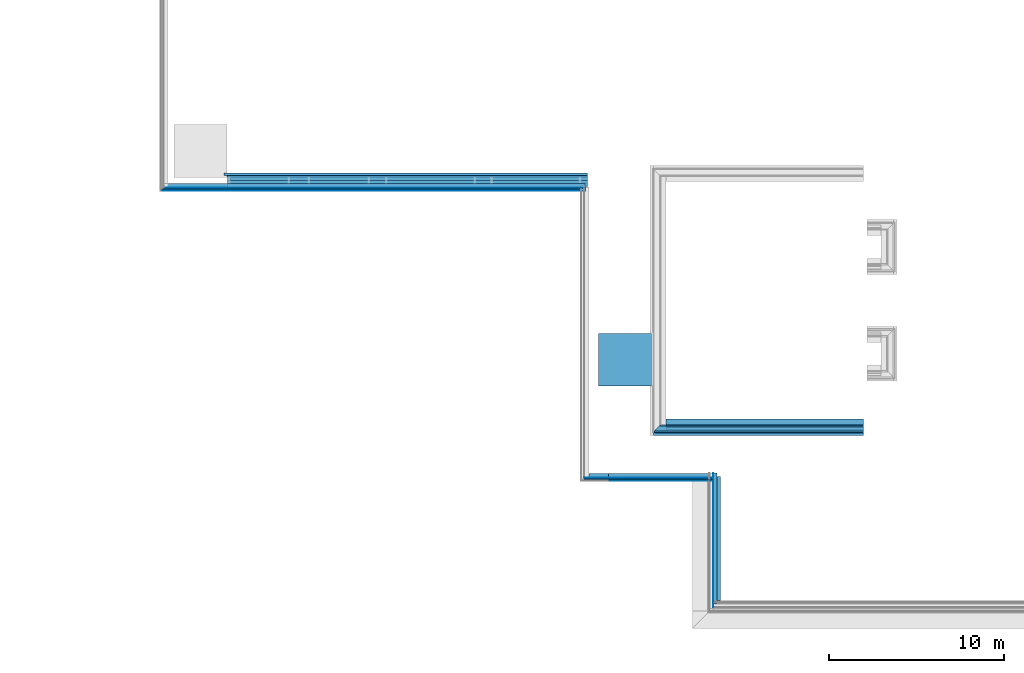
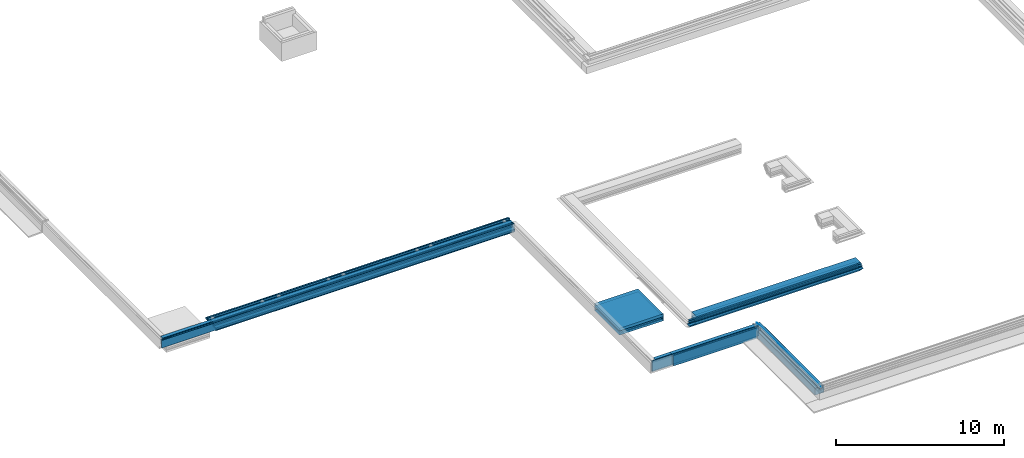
# One storey, part 2 of 17: 37 building element parts, 8 elements without a shape of their own.
"""IFC2X3 building model written with IfcOpenShell, lengths in millimetres."""

import ifcopenshell
import ifcopenshell.guid

model = None  # the IFC model being written
_history = None  # IfcOwnerHistory: only IFC2X3 demands one
_inside = {}  # id of a spatial element -> (the spatial element, [elements in it])
_under = {}  # id of a project, library or spatial element -> (it, [spatial elements below it])
_declared = {}  # id of a project -> (the project, [libraries it declares])
_typed = {}  # id of a type object -> (the type object, [elements of that type])
_made_of = {}  # id of a material, layer set ... -> (it, [elements and type objects made of it])


def new_model(schema):
    """Start an empty IFC model of exactly this schema.

    Asked for "IFC4X3", IfcOpenShell would pick the latest addendum, in which some entities
    have other attributes; the version numbers below select the first issue.
    IFC2X3 requires an IfcOwnerHistory on every rooted entity: one is made here for all.
    """
    global model, _history
    if schema == "IFC4X3":
        model = ifcopenshell.file(schema_version=(4, 3, 0, 0))
    else:
        model = ifcopenshell.file(schema=schema)
    _inside.clear()
    _under.clear()
    _declared.clear()
    _typed.clear()
    _made_of.clear()
    _history = None
    if model.schema == "IFC2X3":
        org = make("IfcOrganization", Name="unknown")
        user = make(
            "IfcPersonAndOrganization",
            ThePerson=make("IfcPerson", FamilyName="unknown"),
            TheOrganization=org,
        )
        app = make(
            "IfcApplication",
            ApplicationDeveloper=org,
            Version="unknown",
            ApplicationFullName="unknown",
            ApplicationIdentifier="unknown",
        )
        _history = make(
            "IfcOwnerHistory",
            OwningUser=user,
            OwningApplication=app,
            ChangeAction="ADDED",
            CreationDate=0,
        )
    return model


def make(cls, **values):
    """One entity of the class cls with the attributes given. An attribute that is None is left unset."""
    return model.create_entity(
        cls, **{name: value for name, value in values.items() if value is not None}
    )


def entity(cls, *values):
    """Any entity or typed value of the class cls, its attributes in the order of the schema. None: left unset."""
    e = model.create_entity(cls)
    for i, value in enumerate(values):
        if value is not None:
            e[i] = value
    return e


def rooted(cls, **values):
    """An entity with a GlobalId (a new one), such as an element, a storey or a relation."""
    return make(cls, GlobalId=ifcopenshell.guid.new(), OwnerHistory=_history, **values)


def si_unit(unit_type, name, prefix=None):
    """IfcSIUnit, for example si_unit("LENGTHUNIT", "METRE", prefix="MILLI")."""
    return make("IfcSIUnit", UnitType=unit_type, Prefix=prefix, Name=name)


def converted_unit(unit_type, name, factor, base, dimensions=None, offset=None):
    """IfcConversionBasedUnit, such as the inch: factor (a typed value) times the base unit."""
    return make(
        "IfcConversionBasedUnit"
        if offset is None
        else "IfcConversionBasedUnitWithOffset",
        ConversionOffset=offset,
        Dimensions=None
        if dimensions is None
        else entity("IfcDimensionalExponents", *dimensions),
        UnitType=unit_type,
        Name=name,
        ConversionFactor=make(
            "IfcMeasureWithUnit", ValueComponent=factor, UnitComponent=base
        ),
    )


def derived_unit(unit_type, elements):
    """IfcDerivedUnit: a product of units, each with its exponent."""
    return make(
        "IfcDerivedUnit",
        Elements=[
            make("IfcDerivedUnitElement", Unit=unit, Exponent=power)
            for unit, power in elements
        ],
        UnitType=unit_type,
    )


def money_unit(currency):
    """IfcMonetaryUnit."""
    return make("IfcMonetaryUnit", Currency=currency)


def assignment(units):
    """IfcUnitAssignment: the units of a project."""
    return None if units is None else make("IfcUnitAssignment", Units=units)


def point(xyz):
    """IfcCartesianPoint."""
    return None if xyz is None else make("IfcCartesianPoint", Coordinates=xyz)


def direction(xyz):
    """IfcDirection."""
    return None if xyz is None else make("IfcDirection", DirectionRatios=xyz)


def frame(location, z_axis=None, x_axis=None):
    """IfcAxis2Placement3D, a coordinate frame: its origin and axes. An axis left out is left unset."""
    return make(
        "IfcAxis2Placement3D",
        Location=point(location),
        Axis=direction(z_axis),
        RefDirection=direction(x_axis),
    )


def origin_with_axes():
    """The frame at (0, 0, 0) with the z axis (0, 0, 1) and the x axis (1, 0, 0) written out."""
    return frame((0.0, 0.0, 0.0), z_axis=(0.0, 0.0, 1.0), x_axis=(1.0, 0.0, 0.0))


def place(relative_to, where):
    """IfcLocalPlacement: puts the frame where relative to a parent placement (None: the world)."""
    return make(
        "IfcLocalPlacement", PlacementRelTo=relative_to, RelativePlacement=where
    )


def context(
    kind, dimensions, precision=None, world=None, true_north=None, identifier=None
):
    """IfcGeometricRepresentationContext, for example the 3D "Model" context."""
    return make(
        "IfcGeometricRepresentationContext",
        ContextIdentifier=identifier,
        ContextType=kind,
        CoordinateSpaceDimension=dimensions,
        Precision=precision,
        WorldCoordinateSystem=world,
        TrueNorth=true_north,
    )


def subcontext(parent, identifier, kind, view, scale=None):
    """IfcGeometricRepresentationSubContext, for example "Body" below "Model"."""
    return make(
        "IfcGeometricRepresentationSubContext",
        ContextIdentifier=identifier,
        ContextType=kind,
        ParentContext=parent,
        TargetScale=scale,
        TargetView=view,
    )


def project(units=None, contexts=None):
    """IfcProject with its units and contexts."""
    return rooted(
        "IfcProject",
        Name="project",
        RepresentationContexts=contexts,
        UnitsInContext=assignment(units),
    )


def spatial(cls, under=None, at=None, **own):
    """A site, building, storey or space (cls), placed at a placement, below another one or the project."""
    s = rooted(cls, ObjectPlacement=at, **own)
    if under is not None:
        _under.setdefault(under.id(), (under, []))[1].append(s)
    return s


def faces_of(points, faces, orient=None, outer=None):
    """IfcFace entities. A face is a list of loops; a loop is a list of indices into points, from 0.

    orient and outer hold one flag for each loop. By default every Orientation is true, the
    first loop of a face is its IfcFaceOuterBound and the others are IfcFaceBound.
    """
    made = []
    for i, loops in enumerate(faces):
        bounds = []
        for j, loop in enumerate(loops):
            is_outer = j == 0 if outer is None else outer[i][j]
            bounds.append(
                make(
                    "IfcFaceOuterBound" if is_outer else "IfcFaceBound",
                    Bound=make("IfcPolyLoop", Polygon=[points[k] for k in loop]),
                    Orientation=True if orient is None else orient[i][j],
                )
            )
        made.append(make("IfcFace", Bounds=bounds))
    return made


def faceted_brep(points, faces, orient=None, outer=None, voids=None):
    """IfcFacetedBrep: a solid bounded by flat faces; with voids (closed shells), ...WithVoids."""
    shared = [point(p) for p in points]
    hull = make("IfcClosedShell", CfsFaces=faces_of(shared, faces, orient, outer))
    if voids is None:
        return make("IfcFacetedBrep", Outer=hull)
    return make(
        "IfcFacetedBrepWithVoids",
        Outer=hull,
        Voids=[
            make(cls, CfsFaces=faces_of(shared, fs, o, b)) for cls, fs, o, b in voids
        ],
    )


def shape(context_of_items, identifier, shape_type, items):
    """IfcShapeRepresentation: the items that make up one representation, for example the "Body"."""
    return make(
        "IfcShapeRepresentation",
        ContextOfItems=context_of_items,
        RepresentationIdentifier=identifier,
        RepresentationType=shape_type,
        Items=items,
    )


def material(Name=None, Category=None):
    """IfcMaterial."""
    return make("IfcMaterial", Name=Name, Category=Category)


def made_of(thing, what):
    """Note that an element or type object is made of a material, layer set ...; save() writes the relation."""
    if what is not None:
        _made_of.setdefault(what.id(), (what, []))[1].append(thing)
    return thing


def type_object(cls, material=None, **own):
    """A type object (cls), such as IfcWallType, which elements share."""
    return made_of(rooted(cls, **own), material)


def element(
    cls,
    number,
    at=None,
    inside=None,
    cuts=None,
    type_object=None,
    material=None,
    context=None,
    identifier="Body",
    shape_type=None,
    held_by="IfcProductDefinitionShape",
    body=None,
    shapes=None,
    **own,
):
    """One element of the class cls, such as IfcWall. Its Tag is "e" and its number.

    at: its placement. inside: the storey or other place that contains it. cuts: it is an
    opening in that element (IfcRelVoidsElement). A single representation is given by context,
    identifier, shape_type and body (its items); several are given by shapes. held_by: the class
    of the entity that holds the representations. save() writes the other relations.
    """
    e = rooted(cls, Tag="e%d" % number, ObjectPlacement=at, **own)
    if body is not None:
        shapes = [shape(context, identifier, shape_type, body)]
    if shapes is not None:
        e.Representation = make(held_by, Representations=shapes)
    if inside is not None:
        _inside.setdefault(inside.id(), (inside, []))[1].append(e)
    if cuts is not None:
        rooted(
            "IfcRelVoidsElement", RelatingBuildingElement=cuts, RelatedOpeningElement=e
        )
    if type_object is not None:
        _typed.setdefault(type_object.id(), (type_object, []))[1].append(e)
    return made_of(e, material)


def aggregate(whole, parts):
    """IfcRelAggregates: a whole, such as a stair, and the parts it consists of."""
    return rooted("IfcRelAggregates", RelatingObject=whole, RelatedObjects=parts)


def save(model, path):
    """Write the relations noted so far, then the file.

    IfcRelAggregates (storeys below a building ...), IfcRelContainedInSpatialStructure (elements
    in a storey), IfcRelDefinesByType, IfcRelAssociatesMaterial and IfcRelDeclares: one each for
    every whole, place, type object, material and project.
    """
    for whole, parts in _under.values():
        aggregate(whole, parts)
    for where, things in _inside.values():
        rooted(
            "IfcRelContainedInSpatialStructure",
            RelatedElements=things,
            RelatingStructure=where,
        )
    for kind, things in _typed.values():
        rooted("IfcRelDefinesByType", RelatedObjects=things, RelatingType=kind)
    for what, things in _made_of.values():
        rooted("IfcRelAssociatesMaterial", RelatedObjects=things, RelatingMaterial=what)
    for by, libraries in _declared.values():
        rooted("IfcRelDeclares", RelatingContext=by, RelatedDefinitions=libraries)
    model.write(path)


model = new_model("IFC2X3")

# Units and contexts
model_context = context("Model", 3, precision=0.01, world=origin_with_axes(), true_north=direction((0.0, 1.0)))
body_context = subcontext(model_context, "Body", "Model", "MODEL_VIEW")
ifc_project = project(units=[si_unit("LENGTHUNIT", "METRE", prefix="MILLI"), si_unit("AREAUNIT", "SQUARE_METRE"), si_unit("VOLUMEUNIT", "CUBIC_METRE"), converted_unit("PLANEANGLEUNIT", "DEGREE", entity("IfcPlaneAngleMeasure", 0.0174532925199), si_unit("PLANEANGLEUNIT", "RADIAN"), dimensions=[0, 0, 0, 0, 0, 0, 0]), money_unit("EUR"), converted_unit("TIMEUNIT", "Year", entity("IfcTimeMeasure", 31556926.0), si_unit("TIMEUNIT", "SECOND"), dimensions=[0, 0, 1, 0, 0, 0, 0]), si_unit("MASSUNIT", "GRAM", prefix="KILO"), si_unit("THERMODYNAMICTEMPERATUREUNIT", "DEGREE_CELSIUS"), si_unit("LUMINOUSINTENSITYUNIT", "LUMEN"), si_unit("ENERGYUNIT", "JOULE", prefix="MEGA"), derived_unit("THERMALCONDUCTANCEUNIT", [(si_unit("POWERUNIT", "WATT"), 1), (si_unit("LENGTHUNIT", "METRE"), -1), (si_unit("THERMODYNAMICTEMPERATUREUNIT", "KELVIN"), -1)]), derived_unit("SPECIFICHEATCAPACITYUNIT", [(si_unit("ENERGYUNIT", "JOULE"), 1), (si_unit("MASSUNIT", "GRAM", prefix="KILO"), -1), (si_unit("THERMODYNAMICTEMPERATUREUNIT", "KELVIN"), -1)]), derived_unit("MASSDENSITYUNIT", [(si_unit("MASSUNIT", "GRAM", prefix="KILO"), 1), (si_unit("VOLUMEUNIT", "CUBIC_METRE"), -1)])], contexts=[model_context])

# Site, building, storey
site_placement = place(None, origin_with_axes())
site = spatial("IfcSite", under=ifc_project, at=site_placement, Name="Kolde pst 67a", CompositionType="ELEMENT")
building_placement = place(site_placement, origin_with_axes())
building = spatial("IfcBuilding", under=site, at=building_placement, Name="Riigigümnaasium", CompositionType="ELEMENT")
storey_placement = place(building_placement, frame((0.0, 0.0, -1500.0), z_axis=(0.0, 0.0, 1.0), x_axis=(1.0, 0.0, 0.0)))
storey = spatial("IfcBuildingStorey", under=building, at=storey_placement, Name="Vundament", CompositionType="ELEMENT", Elevation=-1500.0)

# Wall, building element part
wall_type_1 = type_object("IfcWallType", Name="Lintvundament 1602 x 765", PredefinedType="NOTDEFINED")
wall_1_placement = place(storey_placement, frame((55370.0096858, 40.0, 1479.99999851), z_axis=(0.0, 0.0, 1.0), x_axis=(-3.74232799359e-06, 0.999999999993, 0.0)))
wall_1 = element("IfcWall", 1, at=wall_1_placement, inside=storey, type_object=wall_type_1, Name="Vundament")
ifc_material_1 = material(Name="_KANDETARIND - monoliitne raudbetoon vastavalt EK osale")
building_element_part_1_placement = place(wall_1_placement, origin_with_axes())
building_element_part_1 = element("IfcBuildingElementPart", 2, at=building_element_part_1_placement, material=ifc_material_1, Name="_KANDETARIND - monoliitne raudbetoon vastavalt EK osale", context=body_context, shape_type="Brep", body=[
    faceted_brep([(200.000000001, 0.0, 0.0), (199.999251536, -200.0, 0.0), (7459.92109252, -200.0, 0.0), (7459.92109252, 0.0, 0.0), (200.000000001, 0.0, -250.0), (199.999251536, -200.0, -250.0), (399.941807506, -200.0, -250.0), (7459.92109252, -200.0, -250.0), (7459.92109252, -399.942555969, -750.0), (7459.92109252, 200.057444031, -750.0), (7459.92109252, 200.057444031, -250.0), (7459.92109252, 0.0, -250.0), (7459.92109252, -399.942555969, -250.0), (399.942555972, 0.0, -250.0), (399.941059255, -399.942555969, -250.0), (399.941059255, -399.942555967, -750.0), (399.943304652, 200.057444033, -750.0), (399.943304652, 200.057444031, -250.0)], [[[0, 1, 2, 3]], [[1, 0, 4, 5]], [[1, 5, 6, 7, 2]], [[8, 9, 10, 11, 3, 2, 7, 12]], [[0, 3, 11, 13, 4]], [[6, 5, 4, 13]], [[6, 14, 12, 7]], [[15, 16, 9, 8]], [[17, 10, 9, 16]], [[17, 13, 11, 10]], [[14, 15, 8, 12]], [[13, 17, 16, 15, 14, 6]]]),
])
aggregate(wall_1, [building_element_part_1])

# Slab, building element parts
slab_type = type_object("IfcSlabType", Name="PP-RBM-20/1_EPS 100+ betoon, mullakast 500", PredefinedType="NOTDEFINED")
slab_placement = place(storey_placement, frame((48811.9898134, 12671.9809575, 390.0), z_axis=(0.0, 0.0, 1.0), x_axis=(1.0, 0.0, 0.0)))
slab = element("IfcSlab", 3, at=slab_placement, inside=storey, type_object=slab_type, Name="Taimekast", PredefinedType="NOTDEFINED")
ifc_material_2 = material(Name="_PEALEVALUKIHT - raudbetoonplaat vastavalt EK osale, kalle trapi suunas 1:80")
building_element_part_2_placement = place(slab_placement, origin_with_axes())
building_element_part_2 = element("IfcBuildingElementPart", 4, at=building_element_part_2_placement, material=ifc_material_2, Name="_PEALEVALUKIHT - raudbetoonplaat vastavalt EK osale, kalle trapi suunas 1:80", context=body_context, shape_type="Brep", body=[
    faceted_brep([(3006.0, 0.0, -200.0), (3006.0, 0.0, 0.0), (0.0, 0.0, 0.0), (0.0, 0.0, -200.0), (3006.0, 3006.0, -200.0), (3006.0, 3006.0, 0.0), (0.0, 3006.0, 0.0), (0.0, 3006.0, -200.0)], [[[0, 1, 2, 3]], [[4, 5, 1, 0]], [[2, 1, 5, 6]], [[3, 2, 6, 7]], [[3, 7, 4, 0]], [[7, 6, 5, 4]]]),
])
ifc_material_3 = material(Name="_HÜDROISOLATSIOON/RADOONITÕKE - eelpaigaldatav elastne hüdroisolatsioonimembraan, värske betooniga nakkuv, radoonitihe, WFP Pre-Tec Membrane Plus või samaväärne")
building_element_part_3_placement = place(slab_placement, origin_with_axes())
building_element_part_3 = element("IfcBuildingElementPart", 5, at=building_element_part_3_placement, material=ifc_material_3, Name="_HÜDROISOLATSIOON/RADOONITÕKE - eelpaigaldatav elastne hüdroisolatsioonimembraan, värske betooniga nakkuv, radoonitihe, WFP Pre-Tec Membrane Plus või samaväärne", context=body_context, shape_type="Brep", body=[
    faceted_brep([(3006.0, 0.0, -200.1), (3006.0, 0.0, -200.0), (0.0, 0.0, -200.0), (0.0, 0.0, -200.1), (3006.0, 3006.0, -200.1), (3006.0, 3006.0, -200.0), (0.0, 3006.0, -200.0), (0.0, 3006.0, -200.1)], [[[0, 1, 2, 3]], [[4, 5, 1, 0]], [[2, 1, 5, 6]], [[3, 2, 6, 7]], [[3, 7, 4, 0]], [[7, 6, 5, 4]]]),
])
ifc_material_4 = material(Name="_SOOJUSTUS - vahtpolüstüreenplaadid EPS 120 Perimeeter, survetugevus min 120kPa, veeimavus <2%, soojuserijuhtivus λD<0,036 W/(mK)")
building_element_part_4_placement = place(slab_placement, origin_with_axes())
building_element_part_4 = element("IfcBuildingElementPart", 6, at=building_element_part_4_placement, material=ifc_material_4, Name="_SOOJUSTUS - vahtpolüstüreenplaadid EPS 120 Perimeeter, survetugevus min 120kPa, veeimavus <2%, soojuserijuhtivus λD<0,036 W/(mK)", context=body_context, shape_type="Brep", body=[
    faceted_brep([(3006.0, 0.0, -300.1), (3006.0, 0.0, -200.1), (0.0, 0.0, -200.1), (0.0, 0.0, -300.1), (3006.0, 3006.0, -300.1), (3006.0, 3006.0, -200.1), (0.0, 3006.0, -200.1), (0.0, 3006.0, -300.1)], [[[0, 1, 2, 3]], [[4, 5, 1, 0]], [[2, 1, 5, 6]], [[3, 2, 6, 7]], [[3, 7, 4, 0]], [[7, 6, 5, 4]]]),
])
ifc_material_5 = material(Name="_TÄIDE - tasandus-/tugevduskiht, pinnasesse tambitud killustik E=80MPa, kiilutud fr 4/16")
building_element_part_5_placement = place(slab_placement, origin_with_axes())
building_element_part_5 = element("IfcBuildingElementPart", 7, at=building_element_part_5_placement, material=ifc_material_5, Name="_TÄIDE - tasandus-/tugevduskiht, pinnasesse tambitud killustik E=80MPa, kiilutud fr 4/16", context=body_context, shape_type="Brep", body=[
    faceted_brep([(3006.0, 0.0, -350.1), (3006.0, 0.0, -300.1), (0.0, 0.0, -300.1), (0.0, 0.0, -350.1), (3006.0, 3006.0, -350.1), (3006.0, 3006.0, -300.1), (0.0, 3006.0, -300.1), (0.0, 3006.0, -350.1)], [[[0, 1, 2, 3]], [[4, 5, 1, 0]], [[2, 1, 5, 6]], [[3, 2, 6, 7]], [[3, 7, 4, 0]], [[7, 6, 5, 4]]]),
])
ifc_material_6 = material(Name="_TÄIDE - tasandus-/tugevduskiht, pinnasesse tambitud killustik E=80MPa, fr 16/32")
building_element_part_6_placement = place(slab_placement, origin_with_axes())
building_element_part_6 = element("IfcBuildingElementPart", 8, at=building_element_part_6_placement, material=ifc_material_6, Name="_TÄIDE - tasandus-/tugevduskiht, pinnasesse tambitud killustik E=80MPa, fr 16/32", context=body_context, shape_type="Brep", body=[
    faceted_brep([(3006.0, 0.0, -500.1), (3006.0, 0.0, -350.1), (0.0, 0.0, -350.1), (0.0, 0.0, -500.1), (3006.0, 3006.0, -500.1), (3006.0, 3006.0, -350.1), (0.0, 3006.0, -350.1), (0.0, 3006.0, -500.1)], [[[0, 1, 2, 3]], [[4, 5, 1, 0]], [[2, 1, 5, 6]], [[3, 2, 6, 7]], [[3, 7, 4, 0]], [[7, 6, 5, 4]]]),
])
ifc_material_7 = material(Name="_PINNAS - tihendatud mineraalne tagasitäide või olemasolev pinnas, tihendusaste 92%, Emax/E1 <2.8 (vastavalt MaaRYL2010 klassile 2)")
building_element_part_7_placement = place(slab_placement, origin_with_axes())
building_element_part_7 = element("IfcBuildingElementPart", 9, at=building_element_part_7_placement, material=ifc_material_7, Name="_PINNAS - tihendatud mineraalne tagasitäide või olemasolev pinnas, tihendusaste 92%, Emax/E1 <2.8 (vastavalt MaaRYL2010 klassile 2)", context=body_context, shape_type="Brep", body=[
    faceted_brep([(0.0, 0.0, -500.2), (3006.0, 0.0, -500.2), (3006.0, 0.0, -500.1), (0.0, 0.0, -500.1), (0.0, 3006.0, -500.2), (3006.0, 3006.0, -500.2), (3006.0, 3006.0, -500.1), (0.0, 3006.0, -500.1)], [[[0, 1, 2, 3]], [[0, 4, 5, 1]], [[1, 5, 6, 2]], [[3, 2, 6, 7]], [[4, 0, 3, 7]], [[5, 4, 7, 6]]]),
])
aggregate(slab, [building_element_part_2, building_element_part_3, building_element_part_4, building_element_part_5, building_element_part_6, building_element_part_7])

# Wall, building element parts
wall_type_2 = type_object("IfcWallType", Name="VS-RB-25/3_lintvundament klaasfassaad 433", PredefinedType="NOTDEFINED")
wall_2_placement = place(storey_placement, frame((24070.0027342, 24080.0189962, 949.900024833), z_axis=(0.0, 0.0, 1.0), x_axis=(0.999999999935, -1.14108152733e-05, 0.0)))
wall_2 = element("IfcWall", 10, at=wall_2_placement, inside=storey, type_object=wall_type_2, Name="Vundament")
building_element_part_8_placement = place(wall_2_placement, origin_with_axes())
building_element_part_8 = element("IfcBuildingElementPart", 11, at=building_element_part_8_placement, material=ifc_material_1, Name="_KANDETARIND - monoliitne raudbetoon vastavalt EK osale", context=body_context, shape_type="Brep", body=[
    faceted_brep([(23969.9827281, 170.0, 0.0), (23969.9827281, -80.0, 0.0), (-79.99908714, -80.0, 0.0), (-80.0019398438, 170.0, 0.0), (23969.9827281, 170.0, 549.999975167), (23969.9827281, -80.0, 549.999975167), (-79.99908714, -80.0, 549.999975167), (-80.0019398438, 170.0, 549.999975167)], [[[0, 1, 2, 3]], [[0, 4, 5, 1]], [[1, 5, 6, 2]], [[3, 2, 6, 7]], [[4, 0, 3, 7]], [[5, 4, 7, 6]]]),
])
ifc_material_8 = material(Name="_HÜDROISOLATSIOON - Bituumenvõõp COMBIFLEX-EL vastavalt TL2 nõuetele")
building_element_part_9_placement = place(wall_2_placement, origin_with_axes())
building_element_part_9 = element("IfcBuildingElementPart", 12, at=building_element_part_9_placement, material=ifc_material_8, Name="_HÜDROISOLATSIOON - Bituumenvõõp COMBIFLEX-EL vastavalt TL2 nõuetele", context=body_context, shape_type="Brep", body=[
    faceted_brep([(23969.9827281, -80.0, 0.0), (23969.9827281, -83.0, 0.0), (-82.9990529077, -83.0, 0.0), (-82.9990871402, -80.0, 0.0), (23969.9827281, -80.0, 549.999975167), (23969.9827281, -83.0, 549.999975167), (-82.9990529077, -83.0, 549.999975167), (-82.9990871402, -80.0, 549.999975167)], [[[0, 1, 2, 3]], [[0, 4, 5, 1]], [[1, 5, 6, 2]], [[3, 2, 6, 7]], [[4, 0, 3, 7]], [[5, 4, 7, 6]]]),
])
ifc_material_9 = material(Name="_SOOJUSTUS - ekstrudeeritud polüstüreenist plaadid XPS 250, survetugevus min 250kPa, soojuserijuhtivus λD<0,036 W/(mK), veeimavus alla 0,2%, näiteks XPS 250 foam SL või samaväärne")
building_element_part_10_placement = place(wall_2_placement, origin_with_axes())
building_element_part_10 = element("IfcBuildingElementPart", 13, at=building_element_part_10_placement, material=ifc_material_9, Name="_SOOJUSTUS - ekstrudeeritud polüstüreenist plaadid XPS 250, survetugevus min 250kPa, soojuserijuhtivus λD<0,036 W/(mK), veeimavus alla 0,2%, näiteks XPS 250 foam SL või samaväärne", context=body_context, shape_type="Brep", body=[
    faceted_brep([(23969.9827281, -83.0, 0.0), (23969.9827281, -153.0, 0.0), (-152.998254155, -153.0, 0.0), (-152.999052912, -83.0, 0.0), (23969.9827281, -83.0, 549.999975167), (23969.9827281, -153.0, 549.999975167), (-152.998254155, -153.0, 549.999975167), (-152.999052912, -83.0, 549.999975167)], [[[0, 1, 2, 3]], [[0, 4, 5, 1]], [[1, 5, 6, 2]], [[3, 2, 6, 7]], [[4, 0, 3, 7]], [[5, 4, 7, 6]]]),
])
building_element_part_11_placement = place(wall_2_placement, origin_with_axes())
building_element_part_11 = element("IfcBuildingElementPart", 14, at=building_element_part_11_placement, material=ifc_material_4, Name="_SOOJUSTUS - vahtpolüstüreenplaadid EPS 120 Perimeeter, survetugevus min 120kPa, veeimavus <2%, soojuserijuhtivus λD<0,036 W/(mK)", context=body_context, shape_type="Brep", body=[
    faceted_brep([(23969.9827281, -153.0, 0.0), (23969.9827281, -253.0, 0.0), (-252.99711308, -253.0, 0.0), (-252.998254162, -153.0, 0.0), (23969.9827281, -153.0, 549.999975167), (23969.9827281, -253.0, 549.999975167), (-252.99711308, -253.0, 549.999975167), (-252.998254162, -153.0, 549.999975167)], [[[0, 1, 2, 3]], [[0, 4, 5, 1]], [[1, 5, 6, 2]], [[3, 2, 6, 7]], [[4, 0, 3, 7]], [[5, 4, 7, 6]]]),
])
ifc_material_10 = material(Name="_TUULETÕKE - sokli krohv, silikoonvaikkrohv Weber.pas 481 AquaBalance 1mm \"scratch\" viimistlus, toon helehall CL444 (S 3502-Y) * 35, SILS süsteem, või samaväärne")
building_element_part_12_placement = place(wall_2_placement, origin_with_axes())
building_element_part_12 = element("IfcBuildingElementPart", 15, at=building_element_part_12_placement, material=ifc_material_10, Name="_TUULETÕKE - sokli krohv, silikoonvaikkrohv Weber.pas 481 AquaBalance 1mm \"scratch\" viimistlus, toon helehall CL444 (S 3502-Y) * 35, SILS süsteem, või samaväärne", context=body_context, shape_type="Brep", body=[
    faceted_brep([(23969.9827281, -253.0, 0.0), (23969.9827281, -263.0, 0.0), (-262.996998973, -263.0, 0.0), (-262.997113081, -253.0, 0.0), (23969.9827281, -253.0, 549.999975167), (23969.9827281, -263.0, 549.999975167), (-262.996998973, -263.0, 549.999975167), (-262.997113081, -253.0, 549.999975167)], [[[0, 1, 2, 3]], [[0, 4, 5, 1]], [[1, 5, 6, 2]], [[3, 2, 6, 7]], [[4, 0, 3, 7]], [[5, 4, 7, 6]]]),
])
aggregate(wall_2, [building_element_part_8, building_element_part_9, building_element_part_10, building_element_part_11, building_element_part_12])

wall_3_placement = place(storey_placement, frame((48079.7969495, 7520.00427942, 729.9), z_axis=(0.0, 0.0, 1.0), x_axis=(0.999999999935, -1.14108152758e-05, 0.0)))
wall_3 = element("IfcWall", 16, at=wall_3_placement, inside=storey, type_object=wall_type_2, Name="Vundament")
building_element_part_13_placement = place(wall_3_placement, origin_with_axes())
building_element_part_13 = element("IfcBuildingElementPart", 17, at=building_element_part_13_placement, material=ifc_material_1, Name="_KANDETARIND - monoliitne raudbetoon vastavalt EK osale", context=body_context, shape_type="Brep", body=[
    faceted_brep([(1291.75425587, 170.0, 0.0), (1291.75425587, -80.0, 0.0), (170.0, -80.0, 0.0), (170.0, 170.0, 0.0), (1291.75425587, 170.0, 770.0), (1291.75425587, -80.0, 770.0), (170.0, -80.0, 770.0), (170.0, 170.0, 770.0)], [[[0, 1, 2, 3]], [[0, 4, 5, 1]], [[1, 5, 6, 2]], [[3, 2, 6, 7]], [[4, 0, 3, 7]], [[5, 4, 7, 6]]]),
])
building_element_part_14_placement = place(wall_3_placement, origin_with_axes())
building_element_part_14 = element("IfcBuildingElementPart", 18, at=building_element_part_14_placement, material=ifc_material_8, Name="_HÜDROISOLATSIOON - Bituumenvõõp COMBIFLEX-EL vastavalt TL2 nõuetele", context=body_context, shape_type="Brep", body=[
    faceted_brep([(1291.75425587, -80.0, 0.0), (1291.75425587, -83.0, 0.0), (-80.0, -83.0, 0.0), (-80.0, -80.0, 0.0), (1291.75425587, -80.0, 770.0), (1291.75425587, -83.0, 770.0), (-80.0, -83.0, 770.0), (-80.0, -80.0, 770.0)], [[[0, 1, 2, 3]], [[0, 4, 5, 1]], [[1, 5, 6, 2]], [[3, 2, 6, 7]], [[4, 0, 3, 7]], [[5, 4, 7, 6]]]),
])
building_element_part_15_placement = place(wall_3_placement, origin_with_axes())
building_element_part_15 = element("IfcBuildingElementPart", 19, at=building_element_part_15_placement, material=ifc_material_9, Name="_SOOJUSTUS - ekstrudeeritud polüstüreenist plaadid XPS 250, survetugevus min 250kPa, soojuserijuhtivus λD<0,036 W/(mK), veeimavus alla 0,2%, näiteks XPS 250 foam SL või samaväärne", context=body_context, shape_type="Brep", body=[
    faceted_brep([(1291.75425587, -83.0, 0.0), (1291.75425587, -153.0, 0.0), (-83.0, -153.0, 0.0), (-83.0, -83.0, 0.0), (1291.75425587, -83.0, 770.0), (1291.75425587, -153.0, 770.0), (-83.0, -153.0, 770.0), (-83.0, -83.0, 770.0)], [[[0, 1, 2, 3]], [[0, 4, 5, 1]], [[1, 5, 6, 2]], [[3, 2, 6, 7]], [[4, 0, 3, 7]], [[5, 4, 7, 6]]]),
])
aggregate(wall_3, [building_element_part_13, building_element_part_14, building_element_part_15])

wall_type_3 = type_object("IfcWallType", Name="konvektori alus 853 x 650", PredefinedType="NOTDEFINED")
wall_4_placement = place(storey_placement, frame((48168.6311787, 24449.9708487, 1269.9), z_axis=(0.0, 0.0, 1.0), x_axis=(-1.0, 0.0, 0.0)))
wall_4 = element("IfcWall", 20, at=wall_4_placement, inside=storey, type_object=wall_type_3, Name="Vundament")
building_element_part_16_placement = place(wall_4_placement, origin_with_axes())
building_element_part_16 = element("IfcBuildingElementPart", 21, at=building_element_part_16_placement, material=ifc_material_4, Name="_SOOJUSTUS - vahtpolüstüreenplaadid EPS 120 Perimeeter, survetugevus min 120kPa, veeimavus <2%, soojuserijuhtivus λD<0,036 W/(mK)", context=body_context, shape_type="Brep", body=[
    faceted_brep([(20533.7988284, 49.7296007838, -519.999979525), (20533.7988284, 49.7296007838, -419.99997676), (0.0, 49.7296045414, -419.99997676), (0.0, 49.7296045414, -519.999979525), (20533.7988284, 452.94081774, -419.99997676), (20533.7988284, 452.94081774, -519.999979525), (0.0, 452.940822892, -419.99997676), (0.0, 452.940822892, -519.999979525)], [[[0, 1, 2, 3]], [[4, 1, 0, 5]], [[1, 4, 6, 2]], [[2, 6, 7, 3]], [[5, 0, 3, 7]], [[4, 5, 7, 6]]]),
])
building_element_part_17_placement = place(wall_4_placement, origin_with_axes())
building_element_part_17 = element("IfcBuildingElementPart", 22, at=building_element_part_17_placement, material=ifc_material_4, Name="_SOOJUSTUS - vahtpolüstüreenplaadid EPS 120 Perimeeter, survetugevus min 120kPa, veeimavus <2%, soojuserijuhtivus λD<0,036 W/(mK)", context=body_context, shape_type="Brep", body=[
    faceted_brep([(20533.7988284, 49.7296007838, -419.999979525), (20533.7988284, 49.7296007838, -319.999969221), (0.0, 49.7296045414, -319.999980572), (0.0, 49.7296045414, -419.999979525), (20533.7988284, 200.000012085, -319.999984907), (20533.7988284, 452.94081774, -419.999979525), (20533.7988284, 452.94081774, -319.999969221), (0.0, 200.000001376, -319.999991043), (0.0, 452.940822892, -319.999980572), (0.0, 452.940822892, -419.999979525)], [[[0, 1, 2, 3]], [[4, 1, 0, 5, 6]], [[1, 4, 7, 2]], [[7, 8, 9, 3, 2]], [[5, 0, 3, 9]], [[6, 5, 9, 8]], [[4, 6, 8, 7]]]),
])
building_element_part_18_placement = place(wall_4_placement, origin_with_axes())
building_element_part_18 = element("IfcBuildingElementPart", 23, at=building_element_part_18_placement, material=ifc_material_4, Name="_SOOJUSTUS - vahtpolüstüreenplaadid EPS 120 Perimeeter, survetugevus min 120kPa, veeimavus <2%, soojuserijuhtivus λD<0,036 W/(mK)", context=body_context, shape_type="Brep", body=[
    faceted_brep([(20533.7988284, -249.729604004, -219.999985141), (20533.7988284, -249.729610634, -99.9981170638), (0.0, -249.729610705, -99.9924478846), (0.0, -249.729604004, -219.999985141), (20533.7988284, 199.999996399, -99.9924474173), (20533.7988284, 200.000004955, -219.999985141), (0.0, 200.000001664, -99.9924478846), (0.0, 200.000001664, -219.999985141)], [[[0, 1, 2, 3]], [[4, 1, 0, 5]], [[1, 4, 6, 2]], [[7, 3, 2, 6]], [[5, 0, 3, 7]], [[4, 5, 7, 6]]]),
])
building_element_part_19_placement = place(wall_4_placement, origin_with_axes())
building_element_part_19 = element("IfcBuildingElementPart", 24, at=building_element_part_19_placement, material=ifc_material_4, Name="_SOOJUSTUS - vahtpolüstüreenplaadid EPS 120 Perimeeter, survetugevus min 120kPa, veeimavus <2%, soojuserijuhtivus λD<0,036 W/(mK)", context=body_context, shape_type="Brep", body=[
    faceted_brep([(20533.7988284, -249.729605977, -319.999979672), (20533.7988284, -249.729605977, -219.999986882), (0.0, -249.729605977, -219.999986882), (0.0, -249.729605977, -319.999986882), (20533.7988284, 200.000004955, -219.999986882), (20533.7988284, 49.7296007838, -319.999969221), (20533.7988284, 200.000012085, -319.999984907), (0.0, 200.000001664, -219.999986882), (0.0, 200.000001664, -319.999986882), (0.0, 49.7296045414, -319.999980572)], [[[0, 1, 2, 3]], [[4, 1, 0, 5, 6]], [[1, 4, 7, 2]], [[8, 9, 3, 2, 7]], [[5, 0, 3, 9]], [[6, 5, 9, 8]], [[4, 6, 8, 7]]]),
])
building_element_part_20_placement = place(wall_4_placement, origin_with_axes())
building_element_part_20 = element("IfcBuildingElementPart", 25, at=building_element_part_20_placement, material=ifc_material_1, Name="_KANDETARIND - monoliitne raudbetoon vastavalt EK osale", context=body_context, shape_type="Brep", body=[
    faceted_brep([(20370.7988284, -149.729610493, 0.0), (20370.7988284, -149.729613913, 115.1), (20370.7988284, -150.299547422, 115.1), (20370.7988284, -150.299547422, -100.0), (20370.7988284, 199.994390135, -100.0), (20370.7988284, 199.994390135, 0.0), (0.0, -149.729610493, 0.0), (0.0, -149.729610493, 130.000019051), (20533.7988284, -149.729613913, 130.000015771), (20533.7988284, -149.729613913, 115.1), (20533.7988284, -150.299547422, 115.1), (20733.7988284, -150.299547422, 115.1), (20733.7988284, -150.299547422, -100.0), (20733.7988284, -249.729610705, -100.0), (0.0, -249.729610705, -99.9924485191), (0.0, 200.0, -99.9924485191), (0.0, 200.0, 0.0), (0.0, -249.729611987, 30.0000114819), (0.0, -249.729610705, 130.00000862), (20533.7988284, -249.729611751, 130.00000236), (20533.7988284, -249.729611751, 115.1), (20733.7988284, -249.729611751, 115.1), (20733.7988284, -249.729611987, 30.0000114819)], [[[0, 1, 2, 3, 4, 5]], [[1, 0, 6, 7, 8, 9]], [[1, 9, 10, 2]], [[11, 12, 3, 2, 10]], [[3, 12, 13, 14, 15, 4]], [[5, 4, 15, 16]], [[0, 5, 16, 6]], [[7, 6, 16, 15, 14, 17, 18]], [[18, 19, 8, 7]], [[10, 9, 8, 19, 20]], [[11, 21, 22, 13, 12]], [[11, 10, 20, 21]], [[17, 14, 13, 22]], [[22, 21, 20, 19, 18, 17]]]),
])
building_element_part_21_placement = place(wall_4_placement, origin_with_axes())
building_element_part_21 = element("IfcBuildingElementPart", 26, at=building_element_part_21_placement, material=ifc_material_9, Name="_SOOJUSTUS - ekstrudeeritud polüstüreenist plaadid XPS 250, survetugevus min 250kPa, soojuserijuhtivus λD<0,036 W/(mK), veeimavus alla 0,2%, näiteks XPS 250 foam SL või samaväärne", context=body_context, shape_type="Brep", body=[
    faceted_brep([(20533.7988284, -399.729607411, -100.000008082), (20733.7988284, -399.729607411, -100.000008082), (20733.7988284, -399.729612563, 30.0000114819), (0.0, -399.729612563, 30.0000114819), (0.0, -399.729612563, -319.999986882), (20533.7988284, -399.729607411, -319.999984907), (20533.7988284, -249.729608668, -99.9981170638), (20733.7988284, -249.729608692, -99.9981170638), (20733.7988284, -249.729611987, 30.0000114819), (0.0, -249.729611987, 30.0000114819), (0.0, -249.729603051, -319.999986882), (20533.7988284, -249.729603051, -319.999979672)], [[[0, 1, 2, 3, 4, 5]], [[1, 0, 6, 7]], [[1, 7, 8, 2]], [[3, 2, 8, 9]], [[3, 9, 10, 4]], [[11, 5, 4, 10]], [[0, 5, 11, 6]], [[6, 11, 10, 9, 8, 7]]]),
])
aggregate(wall_4, [building_element_part_16, building_element_part_17, building_element_part_18, building_element_part_19, building_element_part_20, building_element_part_21])

wall_type_4 = type_object("IfcWallType", Name="VS-CLT-20/3_sokkel 433", PredefinedType="NOTDEFINED")
wall_5_placement = place(storey_placement, frame((55370.0097058, 40.0, 1480.0000006), z_axis=(0.0, 0.0, 1.0), x_axis=(-3.84265850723e-06, 0.999999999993, 0.0)))
wall_5 = element("IfcWall", 27, at=wall_5_placement, inside=storey, type_object=wall_type_4, Name="Sokkel")
ifc_material_11 = material(Name="_HÜDROISOLATSIOON - 3x SBS rullmaterjal vastavalt TL2 nõuetele, nakke tugevduseks betoonpind eelnevalt katta hüdroisolatsiooni bituumenvõõbaga")
building_element_part_22_placement = place(wall_5_placement, origin_with_axes())
building_element_part_22 = element("IfcBuildingElementPart", 28, at=building_element_part_22_placement, material=ifc_material_11, Name="_HÜDROISOLATSIOON - 3x SBS rullmaterjal vastavalt TL2 nõuetele, nakke tugevduseks betoonpind eelnevalt katta hüdroisolatsiooni bituumenvõõbaga", context=body_context, shape_type="Brep", body=[
    faceted_brep([(7399.9210903, 0.0, 0.0), (7399.92109252, 0.0, 19.8999996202), (7649.92109255, 0.0, 19.8999996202), (7649.92109286, 0.0, 0.0), (7660.00000006, 0.0, 0.0), (7660.00000006, 0.0, 19.9999994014), (0.0, 0.0, 19.9999994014), (0.0, 0.0, 0.0), (7399.92113787, 3.0, 0.0), (7399.92114009, 3.0, 19.8999996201), (7649.92114012, 3.0, 19.8999996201), (7649.92114042, 3.0, 0.0), (7660.00000006, 3.0, 0.0), (7660.00000006, 3.0, 19.9999994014), (1.15279755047e-05, 3.00000000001, 19.9999994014), (1.15279755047e-05, 3.00000000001, 0.0)], [[[0, 1, 2, 3, 4, 5, 6, 7]], [[1, 0, 8, 9]], [[2, 1, 9, 10]], [[3, 2, 10, 11]], [[3, 11, 12, 4]], [[13, 5, 4, 12]], [[6, 5, 13, 14]], [[7, 6, 14, 15]], [[8, 0, 7, 15]], [[9, 8, 15, 14, 13, 12, 11, 10]]]),
])
ifc_material_12 = material(Name="_KANDETARIND - CLT ristkihtliimpuit vastavalt EK osale, CLT paigaldusvuugid teibitakse ROTHOBLAAS teibiga")
building_element_part_23_placement = place(wall_5_placement, origin_with_axes())
building_element_part_23 = element("IfcBuildingElementPart", 29, at=building_element_part_23_placement, material=ifc_material_12, Name="_KANDETARIND - CLT ristkihtliimpuit vastavalt EK osale, CLT paigaldusvuugid teibitakse ROTHOBLAAS teibiga", context=body_context, shape_type="Brep", body=[
    faceted_brep([(7399.9179192, -200.0, 0.0), (7399.91792149, -200.0, 19.8999996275), (7649.91792152, -200.0, 19.8999996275), (7649.91792184, -200.0, 0.0), (7660.00000006, -200.0, 0.0), (7660.00000006, -200.0, 19.9999994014), (199.99923147, -200.0, 19.9999994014), (199.99923147, -200.0, 0.0), (7399.9210903, 0.0, 0.0), (7399.92109252, 0.0, 19.8999996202), (7649.92109255, 0.0, 19.8999996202), (7649.92109286, 0.0, 0.0), (7660.00000006, 0.0, 0.0), (7660.00000006, 0.0, 19.9999994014), (200.000000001, 0.0, 19.9999994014), (200.000000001, 0.0, 0.0)], [[[0, 1, 2, 3, 4, 5, 6, 7]], [[1, 0, 8, 9]], [[2, 1, 9, 10]], [[3, 2, 10, 11]], [[3, 11, 12, 4]], [[13, 5, 4, 12]], [[6, 5, 13, 14]], [[7, 6, 14, 15]], [[8, 0, 7, 15]], [[9, 8, 15, 14, 13, 12, 11, 10]]]),
])
aggregate(wall_5, [building_element_part_22, building_element_part_23])

wall_type_5 = type_object("IfcWallType", Name="garderoobi plaadipaksendus 916 x 700", PredefinedType="NOTDEFINED")
wall_6_placement = place(storey_placement, frame((52364.9941057, 10484.9619416, 1095.0), z_axis=(0.0, 0.0, 1.0), x_axis=(1.0, 0.0, 0.0)))
wall_6 = element("IfcWall", 30, at=wall_6_placement, inside=storey, type_object=wall_type_5, Name="Vundament")
building_element_part_24_placement = place(wall_6_placement, origin_with_axes())
building_element_part_24 = element("IfcBuildingElementPart", 31, at=building_element_part_24_placement, material=ifc_material_1, Name="_KANDETARIND - monoliitne raudbetoon vastavalt EK osale", context=body_context, shape_type="Brep", body=[
    faceted_brep([(295.0, -304.899999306, 304.9), (295.0, -5.00000015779, 5.0), (11564.9092901, -5.0, 5.0), (11564.9092901, -304.9, 304.9), (295.0, 295.0, 304.9), (295.0, 295.0, 5.0), (295.0, 86.6753466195, 4.99999671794), (11564.9092901, 86.6753466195, 4.99999671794), (11564.9092901, 295.0, 5.0), (11564.9092901, 295.0, 304.9)], [[[0, 1, 2, 3]], [[1, 0, 4, 5, 6]], [[1, 6, 7, 2]], [[3, 2, 7, 8, 9]], [[0, 3, 9, 4]], [[5, 4, 9, 8]], [[6, 5, 8, 7]]]),
])
building_element_part_25_placement = place(wall_6_placement, origin_with_axes())
building_element_part_25 = element("IfcBuildingElementPart", 32, at=building_element_part_25_placement, material=ifc_material_4, Name="_SOOJUSTUS - vahtpolüstüreenplaadid EPS 120 Perimeeter, survetugevus min 120kPa, veeimavus <2%, soojuserijuhtivus λD<0,036 W/(mK)", context=body_context, shape_type="Brep", body=[
    faceted_brep([(294.997848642, -4.95922611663, 4.95922427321), (294.993597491, -46.3388389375, -95.1407949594), (11564.9092901, -46.3388389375, -95.1407949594), (11564.9092901, -4.95922611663, 4.95922427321), (294.997850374, 86.6753466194, 4.99999671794), (294.997850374, 294.997850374, 4.99999671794), (294.993597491, 294.993597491, -95.1407949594), (11564.9092901, 294.993597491, -95.1407949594), (11564.9092901, 294.997850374, 4.99999671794), (11564.9092901, 86.6753466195, 4.99999671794)], [[[0, 1, 2, 3]], [[1, 0, 4, 5, 6]], [[1, 6, 7, 2]], [[3, 2, 7, 8, 9]], [[4, 0, 3, 9]], [[5, 4, 9, 8]], [[6, 5, 8, 7]]]),
])
building_element_part_26_placement = place(wall_6_placement, origin_with_axes())
building_element_part_26 = element("IfcBuildingElementPart", 33, at=building_element_part_26_placement, material=ifc_material_4, Name="_SOOJUSTUS - vahtpolüstüreenplaadid EPS 120 Perimeeter, survetugevus min 120kPa, veeimavus <2%, soojuserijuhtivus λD<0,036 W/(mK)", context=body_context, shape_type="Brep", body=[
    faceted_brep([(294.993602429, 294.993602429, -95.2407899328), (11564.9092901, 294.993602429, -95.2407899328), (11564.9092901, 294.993583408, -195.240789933), (294.993583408, 294.993583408, -195.240789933), (294.993602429, -46.3219876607, -95.2407899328), (11564.9092901, -46.3219876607, -95.2407899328), (11564.9092901, -87.7845121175, -195.240789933), (294.993583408, -87.7845121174, -195.240789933)], [[[0, 1, 2, 3]], [[0, 4, 5, 1]], [[1, 5, 6, 2]], [[6, 7, 3, 2]], [[4, 0, 3, 7]], [[4, 7, 6, 5]]]),
    faceted_brep([(-87.7845177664, 294.993583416, -195.199615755), (-87.7674465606, 294.993583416, -195.199621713), (-87.7845121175, 294.993583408, -195.240789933), (-87.8015695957, 294.993583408, -195.240793), (-87.7845177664, -87.7674389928, -195.199615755), (-87.7674465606, -87.7674427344, -195.199621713), (-87.7845121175, -87.7845121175, -195.240789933), (-87.8015695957, -87.7845121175, -195.240793)], [[[0, 1, 2, 3]], [[1, 0, 4, 5]], [[2, 1, 5, 6]], [[2, 6, 7, 3]], [[4, 0, 3, 7]], [[5, 4, 7, 6]]]),
])
building_element_part_27_placement = place(wall_6_placement, origin_with_axes())
building_element_part_27 = element("IfcBuildingElementPart", 34, at=building_element_part_27_placement, material=ifc_material_5, Name="_TÄIDE - tasandus-/tugevduskiht, pinnasesse tambitud killustik E=80MPa, kiilutud fr 4/16", context=body_context, shape_type="Brep", body=[
    faceted_brep([(294.993573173, -108.495192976, -245.199621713), (294.993573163, -108.512246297, -245.240789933), (11564.9092901, -108.512246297, -245.240789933), (11564.9092901, -108.495191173, -245.19961736), (294.993584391, -87.7845115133, -195.240793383), (294.993584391, 294.993584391, -195.240793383), (294.993573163, 294.993573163, -245.240789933), (11564.9092901, 294.993573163, -245.240789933), (11564.9092901, 294.993584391, -195.240793), (11564.9092901, -87.7845113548, -195.240793)], [[[0, 1, 2, 3]], [[1, 0, 4, 5, 6]], [[1, 6, 7, 2]], [[3, 2, 7, 8, 9]], [[4, 0, 3, 9]], [[4, 9, 8, 5]], [[6, 5, 8, 7]]]),
])
building_element_part_28_placement = place(wall_6_placement, origin_with_axes())
building_element_part_28 = element("IfcBuildingElementPart", 35, at=building_element_part_28_placement, material=ifc_material_6, Name="_TÄIDE - tasandus-/tugevduskiht, pinnasesse tambitud killustik E=80MPa, fr 16/32", context=body_context, shape_type="Brep", body=[
    faceted_brep([(294.99354324, 294.99354324, -395.24078319), (294.993570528, 294.993570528, -245.24078505), (11564.9092901, 294.993570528, -245.24078505), (11564.9092901, 294.99354324, -395.24078319), (294.993570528, -108.512240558, -245.24078505), (294.99354324, -170.189294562, -395.24078319), (11564.9092901, -108.512240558, -245.240798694), (11564.9092901, -170.189294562, -395.24078319)], [[[0, 1, 2, 3]], [[4, 1, 0, 5]], [[1, 4, 6, 2]], [[3, 2, 6, 7]], [[5, 0, 3, 7]], [[4, 5, 7, 6]]]),
])
building_element_part_29_placement = place(wall_6_placement, origin_with_axes())
building_element_part_29 = element("IfcBuildingElementPart", 36, at=building_element_part_29_placement, material=ifc_material_4, Name="_SOOJUSTUS - vahtpolüstüreenplaadid EPS 120 Perimeeter, survetugevus min 120kPa, veeimavus <2%, soojuserijuhtivus λD<0,036 W/(mK)", context=body_context, shape_type="Brep", body=[
    faceted_brep([(-5.00000235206, -146.522069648, 4.99999706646), (-304.900000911, -446.31608874, 304.899995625), (-304.900000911, -304.899998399, 304.899995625), (-5.00000235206, -5.00000235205, 4.99999706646), (-4.95922979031, -146.481310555, 4.95922356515), (-46.3388389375, -46.4166656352, -95.1407949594), (-46.3669050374, -46.3616066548, -95.1958725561), (11564.9092901, -46.3616066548, -95.1958725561), (11564.9092901, -446.316090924, 304.899995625), (11564.9092901, -304.900000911, 304.899995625), (11564.9092901, -5.00000235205, 4.99999706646), (-4.95922979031, -4.95923017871, 4.95922356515), (-46.3388389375, -46.3388389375, -95.1407949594), (11564.9092901, -46.3388389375, -95.1407949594), (11564.9092901, -4.95922979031, 4.95922450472)], [[[0, 1, 2, 3]], [[1, 0, 4, 5, 6, 7, 8]], [[2, 1, 8, 9]], [[3, 2, 9, 10]], [[4, 0, 3, 11]], [[5, 4, 11, 12]], [[6, 5, 12]], [[7, 6, 12, 13]], [[9, 8, 7, 13, 14, 10]], [[11, 3, 10, 14]], [[12, 11, 14, 13]]]),
])
building_element_part_30_placement = place(wall_6_placement, origin_with_axes())
building_element_part_30 = element("IfcBuildingElementPart", 37, at=building_element_part_30_placement, material=ifc_material_4, Name="_SOOJUSTUS - vahtpolüstüreenplaadid EPS 120 Perimeeter, survetugevus min 120kPa, veeimavus <2%, soojuserijuhtivus λD<0,036 W/(mK)", context=body_context, shape_type="Brep", body=[
    faceted_brep([(-346.362777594, -487.784133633, 204.8), (-246.362778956, -387.78413844, 104.800001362), (11564.9092901, -387.784135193, 104.800001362), (11564.9092901, -487.784133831, 204.8), (-346.362777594, -346.362776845, 204.8), (-46.3631558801, -46.3631558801, -95.1996217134), (-46.3631558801, -187.784512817, -95.1996217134), (-87.7845147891, -87.7845121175, -195.199621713), (11564.9092901, -87.7845121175, -195.199621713), (11564.9092901, -346.362777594, 204.8), (11564.9092901, -46.3631558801, -95.1996217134)], [[[0, 1, 2, 3]], [[1, 0, 4, 5, 6]], [[1, 6, 7, 8, 2]], [[9, 3, 2, 8, 10]], [[4, 0, 3, 9]], [[5, 4, 9, 10]], [[7, 6, 5]], [[7, 5, 10, 8]]]),
])
building_element_part_31_placement = place(wall_6_placement, origin_with_axes())
building_element_part_31 = element("IfcBuildingElementPart", 38, at=building_element_part_31_placement, material=ifc_material_5, Name="_TÄIDE - tasandus-/tugevduskiht, pinnasesse tambitud killustik E=80MPa, kiilutud fr 4/16", context=body_context, shape_type="Brep", body=[
    faceted_brep([(-387.784132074, -458.494810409, 104.799998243), (-337.78413326, -408.494808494, 54.799999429), (11564.9092901, -408.494810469, 54.799999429), (11564.9092901, -458.494810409, 104.800001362), (-87.7845147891, -158.495189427, -195.199619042), (-387.78413326, -387.784135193, 104.799999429), (-87.7845147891, -87.7845147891, -195.199619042), (-87.8015737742, -158.454015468, -195.240793), (-87.7845177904, -158.454014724, -195.240793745), (-108.495191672, -108.495187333, -245.199621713), (11564.9092901, -108.495187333, -245.199621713), (11564.9092901, -87.7845147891, -195.199619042), (11564.9092901, -387.784135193, 104.800001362), (-87.8015737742, -87.8015695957, -195.240793), (-87.7845177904, -87.801569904, -195.240793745)], [[[0, 1, 2, 3]], [[4, 1, 0, 5, 6]], [[1, 4, 7, 8, 9, 10, 2]], [[3, 2, 10, 11, 12]], [[5, 0, 3, 12]], [[6, 5, 12, 11]], [[7, 4, 6, 13]], [[13, 14, 8, 7]], [[9, 8, 14]], [[9, 14, 13, 6, 11, 10]]]),
])
building_element_part_32_placement = place(wall_6_placement, origin_with_axes())
building_element_part_32 = element("IfcBuildingElementPart", 39, at=building_element_part_32_placement, material=ifc_material_6, Name="_TÄIDE - tasandus-/tugevduskiht, pinnasesse tambitud killustik E=80MPa, fr 16/32", context=body_context, shape_type="Brep", body=[
    faceted_brep([(-408.494810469, -408.494808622, 54.799999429), (-408.494810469, -620.626844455, 54.799999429), (11564.9092901, -620.626846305, 54.799999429), (11564.9092901, -408.494810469, 54.799999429), (-108.495191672, -320.6272265, -245.199619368), (-108.495191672, -108.495191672, -245.199619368), (-170.189294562, -170.586063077, -395.24078319), (-170.304897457, -170.304905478, -395.521941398), (11564.9092901, -170.304905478, -395.521941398), (11564.9092901, -170.189294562, -395.24078319), (11564.9092901, -108.495191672, -245.199619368), (-170.189294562, -170.189294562, -395.24078319)], [[[0, 1, 2, 3]], [[4, 1, 0, 5]], [[1, 4, 6, 7, 8, 2]], [[2, 8, 9, 10, 3]], [[5, 0, 3, 10]], [[6, 4, 5, 11]], [[7, 6, 11]], [[8, 7, 11, 9]], [[11, 5, 10, 9]]]),
])
aggregate(wall_6, [building_element_part_24, building_element_part_25, building_element_part_26, building_element_part_27, building_element_part_28, building_element_part_29, building_element_part_30, building_element_part_31, building_element_part_32])

wall_7_placement = place(storey_placement, frame((49371.5512054, 7519.99314861, 729.9), z_axis=(0.0, 0.0, 1.0), x_axis=(0.999999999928, -1.2012499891e-05, 0.0)))
wall_7 = element("IfcWall", 40, at=wall_7_placement, inside=storey, type_object=wall_type_2, Name="Vundament")
building_element_part_33_placement = place(wall_7_placement, origin_with_axes())
building_element_part_33 = element("IfcBuildingElementPart", 41, at=building_element_part_33_placement, material=ifc_material_1, Name="_KANDETARIND - monoliitne raudbetoon vastavalt EK osale", context=body_context, shape_type="Brep", body=[
    faceted_brep([(6198.43102657, -80.0000022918, 750.100000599), (6198.42706278, 170.000000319, 750.100000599), (6198.42706278, 170.0, 770.000000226), (6198.43102657, -80.0, 770.000000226), (5998.4307916, 170.000000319, 750.100000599), (5998.4307916, -80.0000022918, 750.100000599), (5998.4307916, 170.000000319, 0.0), (0.0, 170.0, 0.0), (0.0, 170.0, 770.0), (0.0, -80.0, 770.0), (0.0, -80.0, 0.0), (5998.4307916, -80.0000022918, 0.0)], [[[0, 1, 2, 3]], [[4, 1, 0, 5]], [[4, 6, 7, 8, 2, 1]], [[3, 2, 8, 9]], [[5, 0, 3, 9, 10, 11]], [[6, 4, 5, 11]], [[6, 11, 10, 7]], [[8, 7, 10, 9]]]),
])
building_element_part_34_placement = place(wall_7_placement, origin_with_axes())
building_element_part_34 = element("IfcBuildingElementPart", 42, at=building_element_part_34_placement, material=ifc_material_8, Name="_HÜDROISOLATSIOON - Bituumenvõõp COMBIFLEX-EL vastavalt TL2 nõuetele", context=body_context, shape_type="Brep", body=[
    faceted_brep([(5995.43102655, -80.0, 770.0), (5995.43102655, -80.0000022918, 750.100000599), (5998.43102655, -80.0000022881, 750.100000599), (5998.4307916, -80.0000022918, 0.0), (0.0, -80.0, 0.0), (0.0, -80.0, 770.0), (5995.43107411, -83.0, 770.0), (5995.43107411, -82.9999976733, 750.100000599), (5998.43107411, -82.9999976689, 750.100000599), (5998.4307916, -82.9999976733, 0.0), (0.0, -83.0, 0.0), (0.0, -83.0, 770.0)], [[[0, 1, 2, 3, 4, 5]], [[1, 0, 6, 7]], [[8, 2, 1, 7]], [[2, 8, 9, 3]], [[3, 9, 10, 4]], [[5, 4, 10, 11]], [[6, 0, 5, 11]], [[7, 6, 11, 10, 9, 8]]]),
])
building_element_part_35_placement = place(wall_7_placement, origin_with_axes())
building_element_part_35 = element("IfcBuildingElementPart", 43, at=building_element_part_35_placement, material=ifc_material_9, Name="_SOOJUSTUS - ekstrudeeritud polüstüreenist plaadid XPS 250, survetugevus min 250kPa, soojuserijuhtivus λD<0,036 W/(mK), veeimavus alla 0,2%, näiteks XPS 250 foam SL või samaväärne", context=body_context, shape_type="Brep", body=[
    faceted_brep([(5925.4310741, -83.0, 770.0), (5925.4310741, -82.9999976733, 750.100000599), (5998.43107411, -82.9999976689, 750.100000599), (5998.4307916, -82.9999976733, 0.0), (0.0, -83.0, 0.0), (0.0, -83.0, 770.0), (5925.43218396, -153.0, 770.0), (5925.43218396, -153.0, 750.100000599), (5998.43218397, -152.999999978, 750.100000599), (5998.4307916, -153.0, 0.0), (0.0, -153.0, 0.0), (0.0, -153.0, 770.0)], [[[0, 1, 2, 3, 4, 5]], [[1, 0, 6, 7]], [[2, 1, 7, 8]], [[3, 2, 8, 9]], [[4, 3, 9, 10]], [[11, 5, 4, 10]], [[6, 0, 5, 11]], [[7, 6, 11, 10, 9, 8]]]),
])
building_element_part_36_placement = place(wall_7_placement, origin_with_axes())
building_element_part_36 = element("IfcBuildingElementPart", 44, at=building_element_part_36_placement, material=ifc_material_4, Name="_SOOJUSTUS - vahtpolüstüreenplaadid EPS 120 Perimeeter, survetugevus min 120kPa, veeimavus <2%, soojuserijuhtivus λD<0,036 W/(mK)", context=body_context, shape_type="Brep", body=[
    faceted_brep([(5775.43218395, -153.0, 770.0), (5775.43218395, -153.0, 750.100000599), (5998.43218397, -152.999999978, 750.100000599), (5998.4307916, -153.0, 0.0), (0.0, -153.0, 0.0), (0.0, -153.0, 770.0), (5775.43376946, -253.0, 770.0), (5775.43376946, -252.999996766, 750.100000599), (5998.43376949, -252.999996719, 750.100000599), (5998.4307916, -252.999996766, 0.0), (0.0, -253.0, 0.0), (0.0, -253.0, 770.0)], [[[0, 1, 2, 3, 4, 5]], [[1, 0, 6, 7]], [[2, 1, 7, 8]], [[9, 3, 2, 8]], [[10, 4, 3, 9]], [[10, 11, 5, 4]], [[6, 0, 5, 11]], [[7, 6, 11, 10, 9, 8]]]),
])
building_element_part_37_placement = place(wall_7_placement, origin_with_axes())
building_element_part_37 = element("IfcBuildingElementPart", 45, at=building_element_part_37_placement, material=ifc_material_10, Name="_TUULETÕKE - sokli krohv, silikoonvaikkrohv Weber.pas 481 AquaBalance 1mm \"scratch\" viimistlus, toon helehall CL444 (S 3502-Y) * 35, SILS süsteem, või samaväärne", context=body_context, shape_type="Brep", body=[
    faceted_brep([(5765.43376946, -253.0, 770.0), (5765.43376946, -252.999996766, 750.100000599), (5998.43376949, -252.999996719, 750.100000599), (5998.4307916, -252.999996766, 0.0), (0.0, -253.0, 0.0), (0.0, -253.0, 770.0), (5765.43392801, -263.0, 770.0), (5765.43392801, -263.0, 750.100000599), (5998.43392804, -262.99999995, 750.100000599), (5998.4307916, -263.0, 0.0), (0.0, -263.0, 0.0), (0.0, -263.0, 770.0)], [[[0, 1, 2, 3, 4, 5]], [[1, 0, 6, 7]], [[2, 1, 7, 8]], [[8, 9, 3, 2]], [[9, 10, 4, 3]], [[4, 10, 11, 5]], [[6, 0, 5, 11]], [[7, 6, 11, 10, 9, 8]]]),
])
aggregate(wall_7, [building_element_part_33, building_element_part_34, building_element_part_35, building_element_part_36, building_element_part_37])

save(model, "model.ifc")
